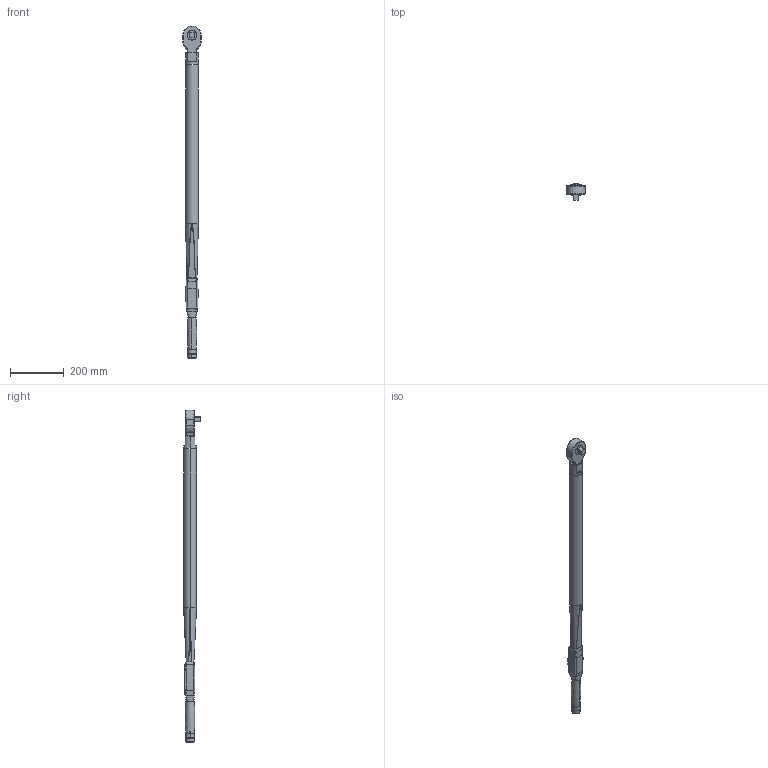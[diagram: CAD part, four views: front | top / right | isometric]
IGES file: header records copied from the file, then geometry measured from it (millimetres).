
Start section:  PTC IGES file: 6159352140_dim.igs
Global section: file name: 6159352140_dim.igs; native system: Creo Parametric by PTC Inc.; preprocessor: 2021072; author: S00000450; organization: Unknown; date: 20210628.090553; units: millimetre
Bounding box: 69 x 62.5 x 1234.5 mm (x, y, z)
Surface area: 186311.9 mm2 (no closed solid volume)
Topology: 0 solids, 0 shells, 184 faces, 907 edges, 907 vertices
Faces by surface type: bspline 88, revolution 87, extrusion 9
